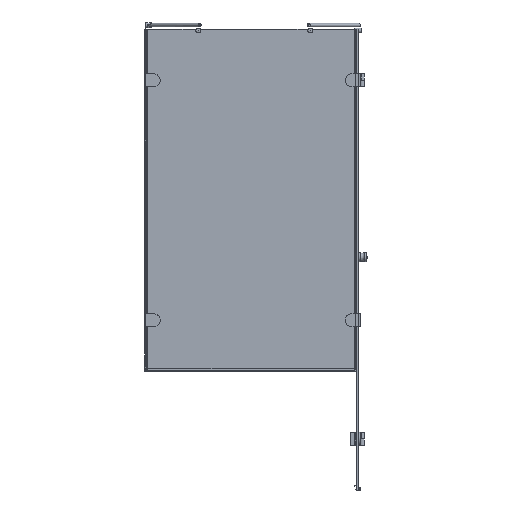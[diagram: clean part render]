
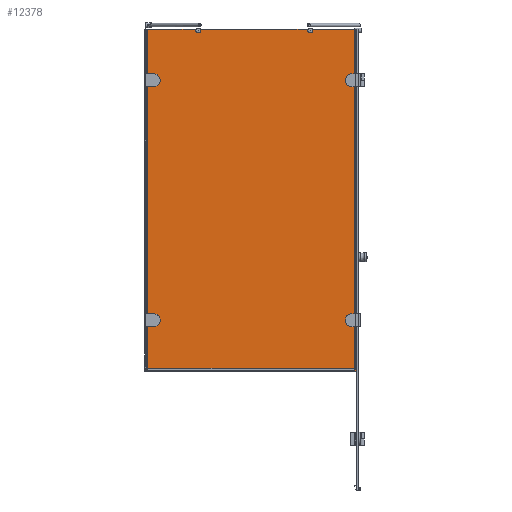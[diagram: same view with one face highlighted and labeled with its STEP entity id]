
A CAD part, left-side view. The second image highlights one B-rep face of the part: STEP entity #12378.
In plain terms, the highlighted planar face has unit normal (-1, 0, 0).
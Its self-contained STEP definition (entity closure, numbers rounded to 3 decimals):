
#345=LINE($,#18954,#1573);
#354=LINE($,#18981,#1582);
#362=LINE($,#19010,#1590);
#363=LINE($,#19014,#1591);
#364=LINE($,#19016,#1592);
#365=LINE($,#19018,#1593);
#366=LINE($,#19020,#1594);
#367=LINE($,#19022,#1595);
#368=LINE($,#19024,#1596);
#369=LINE($,#19026,#1597);
#370=LINE($,#19028,#1598);
#371=LINE($,#19030,#1599);
#372=LINE($,#19031,#1600);
#373=LINE($,#19033,#1601);
#374=LINE($,#19035,#1602);
#375=LINE($,#19036,#1603);
#1573=VECTOR($,#14887,2.443);
#1582=VECTOR($,#14906,174.531);
#1590=VECTOR($,#14930,444.574);
#1591=VECTOR($,#14933,198.474);
#1592=VECTOR($,#14934,1408.25);
#1593=VECTOR($,#14935,853.);
#1594=VECTOR($,#14936,0.5);
#1595=VECTOR($,#14937,853.);
#1596=VECTOR($,#14938,1.25);
#1597=VECTOR($,#14939,853.);
#1598=VECTOR($,#14940,5.);
#1599=VECTOR($,#14941,10.);
#1600=VECTOR($,#14942,1400.);
#1601=VECTOR($,#14943,1400.);
#1602=VECTOR($,#14944,2.257);
#1603=VECTOR($,#14945,1400.);
#2661=PLANE($,#13234);
#3449=FACE_OUTER_BOUND($,#4135,.T.);
#4135=EDGE_LOOP($,(#8801,#8802,#8803,#8804,#8805,#8806,#8807,#8808,#8809,
#8810,#8811,#8812,#8813,#8814,#8815,#8816,#8817,#8818));
#4814=CIRCLE($,#13235,10.);
#4815=CIRCLE($,#13236,10.);
#5386=VERTEX_POINT($,#18951);
#5387=VERTEX_POINT($,#18953);
#5399=VERTEX_POINT($,#18978);
#5400=VERTEX_POINT($,#18980);
#5412=VERTEX_POINT($,#19007);
#5413=VERTEX_POINT($,#19009);
#5414=VERTEX_POINT($,#19011);
#5415=VERTEX_POINT($,#19013);
#5416=VERTEX_POINT($,#19015);
#5417=VERTEX_POINT($,#19017);
#5418=VERTEX_POINT($,#19019);
#5419=VERTEX_POINT($,#19021);
#5420=VERTEX_POINT($,#19023);
#5421=VERTEX_POINT($,#19025);
#5422=VERTEX_POINT($,#19027);
#5423=VERTEX_POINT($,#19029);
#5424=VERTEX_POINT($,#19032);
#5425=VERTEX_POINT($,#19034);
#6669=EDGE_CURVE($,#5386,#5387,#345,.T.);
#6683=EDGE_CURVE($,#5399,#5400,#354,.T.);
#6696=EDGE_CURVE($,#5412,#5399,#4814,.T.);
#6697=EDGE_CURVE($,#5413,#5412,#362,.T.);
#6698=EDGE_CURVE($,#5414,#5413,#4815,.T.);
#6699=EDGE_CURVE($,#5415,#5414,#363,.T.);
#6700=EDGE_CURVE($,#5416,#5415,#364,.T.);
#6701=EDGE_CURVE($,#5416,#5417,#365,.T.);
#6702=EDGE_CURVE($,#5418,#5417,#366,.T.);
#6703=EDGE_CURVE($,#5419,#5418,#367,.T.);
#6704=EDGE_CURVE($,#5420,#5419,#368,.T.);
#6705=EDGE_CURVE($,#5420,#5421,#369,.T.);
#6706=EDGE_CURVE($,#5421,#5422,#370,.T.);
#6707=EDGE_CURVE($,#5423,#5422,#371,.T.);
#6708=EDGE_CURVE($,#5387,#5423,#372,.T.);
#6709=EDGE_CURVE($,#5424,#5386,#373,.T.);
#6710=EDGE_CURVE($,#5425,#5424,#374,.T.);
#6711=EDGE_CURVE($,#5400,#5425,#375,.T.);
#8801=ORIENTED_EDGE($,*,*,#6696,.F.);
#8802=ORIENTED_EDGE($,*,*,#6697,.F.);
#8803=ORIENTED_EDGE($,*,*,#6698,.F.);
#8804=ORIENTED_EDGE($,*,*,#6699,.F.);
#8805=ORIENTED_EDGE($,*,*,#6700,.F.);
#8806=ORIENTED_EDGE($,*,*,#6701,.T.);
#8807=ORIENTED_EDGE($,*,*,#6702,.F.);
#8808=ORIENTED_EDGE($,*,*,#6703,.F.);
#8809=ORIENTED_EDGE($,*,*,#6704,.F.);
#8810=ORIENTED_EDGE($,*,*,#6705,.T.);
#8811=ORIENTED_EDGE($,*,*,#6706,.T.);
#8812=ORIENTED_EDGE($,*,*,#6707,.F.);
#8813=ORIENTED_EDGE($,*,*,#6708,.F.);
#8814=ORIENTED_EDGE($,*,*,#6669,.F.);
#8815=ORIENTED_EDGE($,*,*,#6709,.F.);
#8816=ORIENTED_EDGE($,*,*,#6710,.F.);
#8817=ORIENTED_EDGE($,*,*,#6711,.F.);
#8818=ORIENTED_EDGE($,*,*,#6683,.F.);
#12378=ADVANCED_FACE($,(#3449),#2661,.F.);
#13234=AXIS2_PLACEMENT_3D($,#19006,#14926,#14927);
#13235=AXIS2_PLACEMENT_3D($,#19008,#14928,#14929);
#13236=AXIS2_PLACEMENT_3D($,#19012,#14931,#14932);
#14887=DIRECTION($,(0.,-1.,0.));
#14906=DIRECTION($,(0.,-1.,0.));
#14926=DIRECTION('center_axis',(1.,0.,0.));
#14927=DIRECTION('ref_axis',(0.,-1.,0.));
#14928=DIRECTION('center_axis',(-1.,0.,0.));
#14929=DIRECTION('ref_axis',(0.,0.,
-1.));
#14930=DIRECTION($,(0.,-1.,0.));
#14931=DIRECTION('center_axis',(-1.,0.,0.));
#14932=DIRECTION('ref_axis',(0.,0.,
-1.));
#14933=DIRECTION($,(0.,-1.,0.));
#14934=DIRECTION($,(0.,0.,1.));
#14935=DIRECTION($,(0.,-1.,0.));
#14936=DIRECTION($,(0.,0.,1.));
#14937=DIRECTION($,(0.,-1.,0.));
#14938=DIRECTION($,(0.,0.,1.));
#14939=DIRECTION($,(0.,-1.,0.));
#14940=DIRECTION($,(0.,-1.,0.));
#14941=DIRECTION($,(0.,0.,-1.));
#14942=DIRECTION($,(0.,0.,-1.));
#14943=DIRECTION($,(0.,0.,1.));
#14944=DIRECTION($,(0.,-1.,0.));
#14945=DIRECTION($,(0.,0.,-1.));
#18951=CARTESIAN_POINT('',(1090.59,-21.601,1385.944));
#18953=CARTESIAN_POINT('',(1090.59,-24.044,1385.944));
#18954=CARTESIAN_POINT($,(1090.59,838.956,1385.944));
#18978=CARTESIAN_POINT('',(1090.59,155.187,1385.944));
#18980=CARTESIAN_POINT('',(1090.59,-19.344,1385.944));
#18981=CARTESIAN_POINT($,(1090.59,838.956,1385.944));
#19006=CARTESIAN_POINT('Origin',(1090.59,838.956,1385.944));
#19007=CARTESIAN_POINT('',(1090.59,173.048,1385.944));
#19008=CARTESIAN_POINT('Origin',(1090.59,164.117,1381.444));
#19009=CARTESIAN_POINT('',(1090.59,617.622,1385.944));
#19010=CARTESIAN_POINT($,(1090.59,838.956,1385.944));
#19011=CARTESIAN_POINT('',(1090.59,635.482,1385.944));
#19012=CARTESIAN_POINT('Origin',(1090.59,626.552,1381.444));
#19013=CARTESIAN_POINT('',(1090.59,833.956,1385.944));
#19014=CARTESIAN_POINT($,(1090.59,838.956,1385.944));
#19015=CARTESIAN_POINT('',(1090.59,833.956,-22.306));
#19016=CARTESIAN_POINT($,(1090.59,833.956,680.944));
#19017=CARTESIAN_POINT('',(1090.59,-19.044,-22.306));
#19018=CARTESIAN_POINT($,(1090.59,838.956,-22.306));
#19019=CARTESIAN_POINT('',(1090.59,-19.044,-22.806));
#19020=CARTESIAN_POINT($,(1090.59,-19.044,681.691));
#19021=CARTESIAN_POINT('',(1090.59,833.956,-22.806));
#19022=CARTESIAN_POINT($,(1090.59,838.956,-22.806));
#19023=CARTESIAN_POINT('',(1090.59,833.956,-24.056));
#19024=CARTESIAN_POINT($,(1090.59,833.956,680.944));
#19025=CARTESIAN_POINT('',(1090.59,-19.044,-24.056));
#19026=CARTESIAN_POINT($,(1090.59,838.956,-24.056));
#19027=CARTESIAN_POINT('',(1090.59,-24.044,-24.056));
#19028=CARTESIAN_POINT($,(1090.59,838.956,-24.056));
#19029=CARTESIAN_POINT('',(1090.59,-24.044,-14.056));
#19030=CARTESIAN_POINT($,(1090.59,-24.044,1385.944));
#19031=CARTESIAN_POINT($,(1090.59,-24.044,1385.944));
#19032=CARTESIAN_POINT('',(1090.59,-21.601,-14.056));
#19033=CARTESIAN_POINT($,(1090.59,-21.601,1385.944));
#19034=CARTESIAN_POINT('',(1090.59,-19.344,-14.056));
#19035=CARTESIAN_POINT($,(1090.59,408.059,-14.056));
#19036=CARTESIAN_POINT($,(1090.59,-19.344,1385.944));
